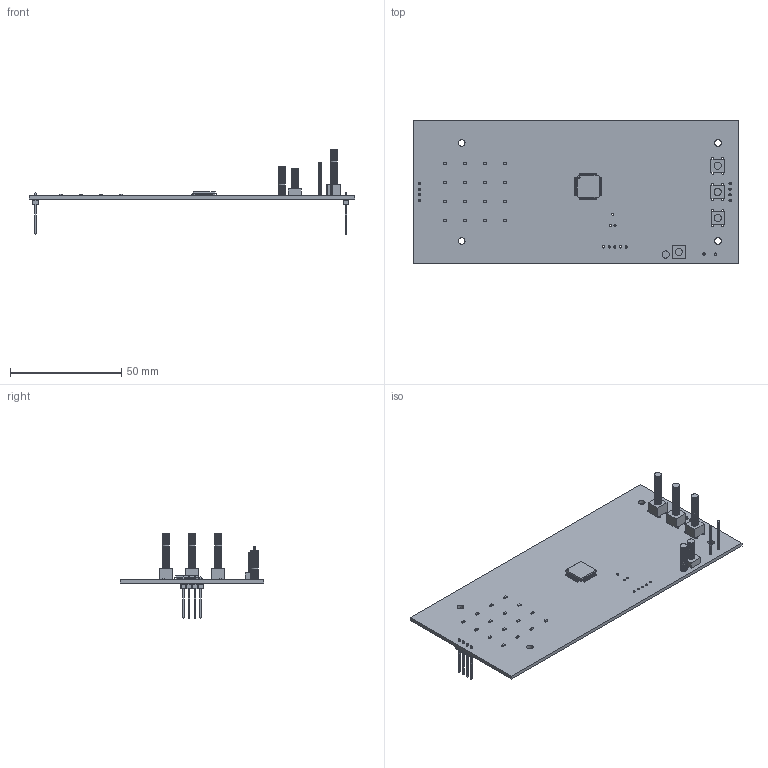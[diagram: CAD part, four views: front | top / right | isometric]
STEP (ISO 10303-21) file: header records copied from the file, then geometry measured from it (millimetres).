
FILE_DESCRIPTION(('Open CASCADE Model'),'2;1');
FILE_NAME('Open CASCADE Shape Model','2026-08-01T20:41:40',('Author'),( 'Open CASCADE'),'Open CASCADE STEP processor 7.5','Open CASCADE 7.5' ,'Unknown');
FILE_SCHEMA(('AUTOMOTIVE_DESIGN { 1 0 10303 214 1 1 1 1 }'));
Length unit declared in the file: millimetre
Products named in the file (56): PCB; Board; Open CASCADE STEP translator 7.5 2.1.1; D19; QBLP601_MONO; Substrate; Bottom Polarity; Top Polarity 2a; Bottom Pad 2; Bottom Pad 1; Side Pad 2; Top Polarity 2b; Side Pad 1; Top Pad 1; Resin; D18; D17; D16; D15; D14; D13; D12; SW1; 12879318144; Extruded; 11130369120; J10; strip_tsw-104-15-t-s; D5; D7; J9; SW3; J1; 13075747648; D10; D11; 13076866352; 11111678320; D8; D4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
Assembly tree (76 placements, depth 4):
  PCB
    Board
      Open CASCADE STEP translator 7.5 2.1.1
    D19
      QBLP601_MONO
        Substrate
        Bottom Polarity
        Top Polarity 2a
        Bottom Pad 2
        Bottom Pad 1
        Side Pad 2
        Top Polarity 2b
        Side Pad 1
        Top Polarity 2a
        Top Pad 1
        Resin
    D18
      QBLP601_MONO
        Substrate
        Bottom Polarity
        Top Polarity 2a
        Bottom Pad 2
        Bottom Pad 1
        Side Pad 2
        Top Polarity 2b
        Side Pad 1
        Top Polarity 2a
        Top Pad 1
        Resin
    D17
      QBLP601_MONO
        Substrate
        Bottom Polarity
        Top Polarity 2a
        Bottom Pad 2
        Bottom Pad 1
        Side Pad 2
        Top Polarity 2b
        Side Pad 1
        Top Polarity 2a
        Top Pad 1
        Resin
    D16
      QBLP601_MONO
        Substrate
        Bottom Polarity
        Top Polarity 2a
        Bottom Pad 2
        Bottom Pad 1
        Side Pad 2
        Top Polarity 2b
        Side Pad 1
        Top Polarity 2a
        Top Pad 1
        Resin
    D15
      QBLP601_MONO
        Substrate
        Bottom Polarity
        Top Polarity 2a
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Bounding box: 146.28 x 64.4 x 37.85 mm (x, y, z)
Volume: 16540.9 mm3; surface area: 22281.5 mm2
Topology: 257 solids, 257 shells, 4629 faces, 11840 edges, 7856 vertices
Faces by surface type: plane 3389, cylinder 776, bspline 464
Full cylindrical faces by diameter (mm): 0.9 x2, 0.99 x3, 1 x13, 1.06 x12, 1.1 x2, 3 x4
Entity records: 49747 total; most frequent: CARTESIAN_POINT 8555, ORIENTED_EDGE 7970, DIRECTION 7747, EDGE_CURVE 3985, LINE 3275, VECTOR 3275, VERTEX_POINT 2638, AXIS2_PLACEMENT_3D 2236
